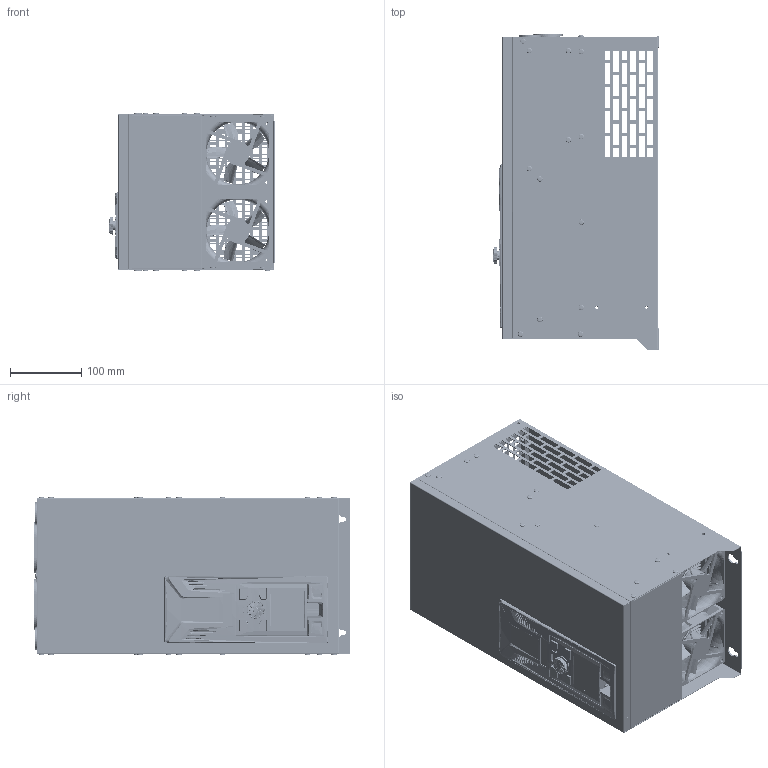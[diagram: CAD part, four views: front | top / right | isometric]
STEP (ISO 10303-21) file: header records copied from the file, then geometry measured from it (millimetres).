
FILE_DESCRIPTION((''),'2;1');
FILE_NAME('0CA700-30KW_ASM_51_ASM','2026-05-06T15:57:33',('23373'),(''),'CREO PARAMETRIC BY PTC INC, 2021023','CREO PARAMETRIC BY PTC INC, 2021023','');
FILE_SCHEMA(('AUTOMOTIVE_DESIGN { 1 0 10303 214 1 1 1 1 }'));
Products named in the file (144): CA700-30KW-SR-01_10; CA700-30KW-SR-01_ASM_6_ASM; CA700-30KW-BJ-01-01_24; CA700-30KW-BJ-01-01_ASM_24_ASM; CA700-30KW-BJ-01-02_20; S-M4-ZC_41; CA700-30KW-BJ-01-02_ASM_17_ASM; CA700-30KW-BJ-01-03_22; SO-3R5M4-17-ZC_48; CA700-30KW-BJ-01-03_ASM_22_ASM; CA700-30KW-BJ-01-04_15; CA700-30KW-BJ-01-04_ASM_12_ASM; CA700-30KW-BJ-01-05_17; CA700-30KW-BJ-01-05_ASM_14_ASM; CA700-30KW-BJ-01-06_18; D4X8-GB12618-1990_2; CA700-30KW-BJ-01_ASM_32_ASM; CA700-30KW-BJ-02_20; S-M5-ZC_41; CA700-30KW-BJ-02_ASM_22_ASM; CA700-30KW-BJ-03_22; SO-3R5M3-6-ZC_48; CA700-30KW-BJ-03_ASM_32_ASM; CA700-30KW-BJ-04_15; CA700-30KW-BJ-04_ASM_14_ASM; CA700-30KW-BJ-05_18; TPS-4-8-ZC_102; CA700-30KW-BJ-05_ASM_14_ASM; CA700-30KW-BJ_ASM_38_ASM; CA700-30KW-TP-01_8; CA700-30KW-TP-02_8; CA700-30KW-TP-03_8; CA700-30KW-TP_ASM_6_ASM; FS150R12KT3_1; 9225_1_1; 9225_1_2; 9225_1_ASM; 352-05_8_1; 251-03_1; CA700-30KW-QJ_ASM_15_ASM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
Assembly tree (247 placements, depth 8):
  0CA700-30KW_ASM_51_ASM
    CA700-30KW-SR-01_ASM_6_ASM
      CA700-30KW-SR-01_10
    CA700-30KW-BJ_ASM_38_ASM
      CA700-30KW-BJ-01_ASM_32_ASM
        CA700-30KW-BJ-01-01_ASM_24_ASM
          CA700-30KW-BJ-01-01_24
        CA700-30KW-BJ-01-02_ASM_17_ASM
          CA700-30KW-BJ-01-02_20
          S-M4-ZC_41  x2
        CA700-30KW-BJ-01-03_ASM_22_ASM
          CA700-30KW-BJ-01-03_22
          SO-3R5M4-17-ZC_48  x5
        CA700-30KW-BJ-01-04_ASM_12_ASM  x2
          CA700-30KW-BJ-01-04_15
          S-M4-ZC_41
        CA700-30KW-BJ-01-05_ASM_14_ASM  x2
          CA700-30KW-BJ-01-05_17
          S-M4-ZC_41
        CA700-30KW-BJ-01-06_18  x2
        D4X8-GB12618-1990_2  x30
      CA700-30KW-BJ-02_ASM_22_ASM
        CA700-30KW-BJ-02_20
        S-M5-ZC_41  x2
      CA700-30KW-BJ-03_ASM_32_ASM
        CA700-30KW-BJ-03_22
        S-M4-ZC_41
        SO-3R5M3-6-ZC_48  x3
      CA700-30KW-BJ-04_ASM_14_ASM
        CA700-30KW-BJ-04_15
        S-M4-ZC_41  x12
      CA700-30KW-BJ-05_ASM_14_ASM
        CA700-30KW-BJ-05_18
        TPS-4-8-ZC_102  x2
    CA700-30KW-TP_ASM_6_ASM
      CA700-30KW-TP-01_8
      CA700-30KW-TP-02_8
      CA700-30KW-TP-03_8
    CA700-30KW-QJ_ASM_15_ASM
      FS150R12KT3_1
      9225_1_ASM  x2
        9225_1_1
        9225_1_2
      352-05_8_1  x2
      251-03_1  x2
    CA700-30KW-JY-01_4
    HC-_ASM_4
    LD-_ASM_9_ASM
      GB9074-8-1988-M4X12_1_ASM  x4
        GB9074-8-1988-M4X12_1_1
        GB9074-8-1988-M4X12_1_2
        GB9074-8-1988-M4X12_1_3
    JP_ASM_38_ASM
      CA700-JP-_ASM_14_ASM
        CA700-X-A01_ASM_151_ASM_10_ASM
          CA700-1R5-SJ-A_ASM_28_ASM_4_ASM
            CA700-1R5-SJ-01-A01_ASM_9_ASM_3
            PRT0001_2
            ASM0001_ASM_2_ASM
              PRT0003_2
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Bounding box: 232.73 x 445.1 x 223.4 mm (x, y, z)
Volume: 2342800.3 mm3; surface area: 3402281.3 mm2
Topology: 221 solids, 248 shells, 33360 faces, 90284 edges, 59151 vertices
Faces by surface type: plane 25522, cylinder 4908, bspline 907, extrusion 793, cone 677, torus 430, revolution 62, sphere 61
Entity records: 856576 total; most frequent: CARTESIAN_POINT 186371, ORIENTED_EDGE 114137, DIRECTION 100946, EDGE_CURVE 57111, VECTOR 44266, LINE 43897, VERTEX_POINT 37286, AXIS2_PLACEMENT_3D 28338
